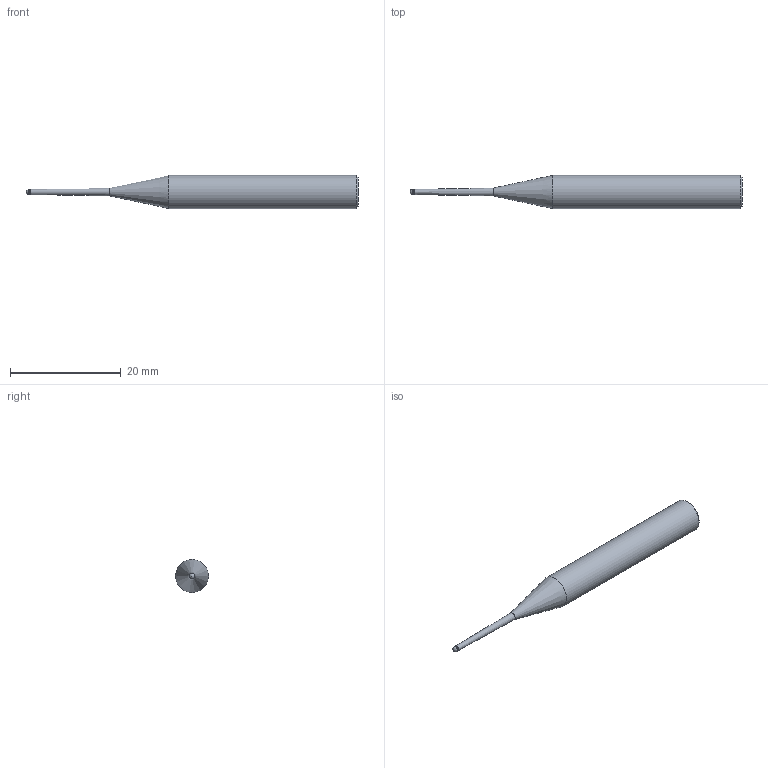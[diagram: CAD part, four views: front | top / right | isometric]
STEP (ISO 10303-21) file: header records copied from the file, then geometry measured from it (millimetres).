
FILE_DESCRIPTION(/* description */ (''),/* implementation_level */ '2;1');
FILE_NAME(/* name */ 'HGXPB2010-15-T0.9 0660.stp',/* time_stamp */ '2026-01-22T08:58:20+08:00',/* author */ (''),/* organization */ (''),/* preprocessor_version */ 'ST-DEVELOPER v16',/* originating_system */ 'SIEMENS PLM Software NX 10.0',/* authorisation */ '');
FILE_SCHEMA (('CONFIG_CONTROL_DESIGN'));
Length unit declared in the file: millimetre
Products named in the file (1): HGXPB2010-15-T0.9 0660_x_t
Bounding box: 60 x 6 x 6 mm (x, y, z)
Volume: 1112.7 mm3; surface area: 852.5 mm2
Topology: 1 solids, 1 shells, 9 faces, 16 edges, 9 vertices
Faces by surface type: cylinder 3, cone 3, plane 2, sphere 1
Full cylindrical faces by diameter (mm): 0.95 x1, 1 x1, 6 x1
Entity records: 258 total; most frequent: DIRECTION 36, CARTESIAN_POINT 26, AXIS2_PLACEMENT_3D 18, EDGE_LOOP 16, ORIENTED_EDGE 16, FACE_BOUND 14, ADVANCED_FACE 9, VERTEX_POINT 8
